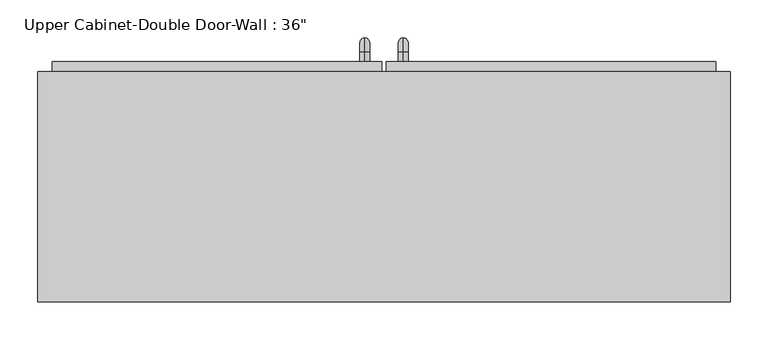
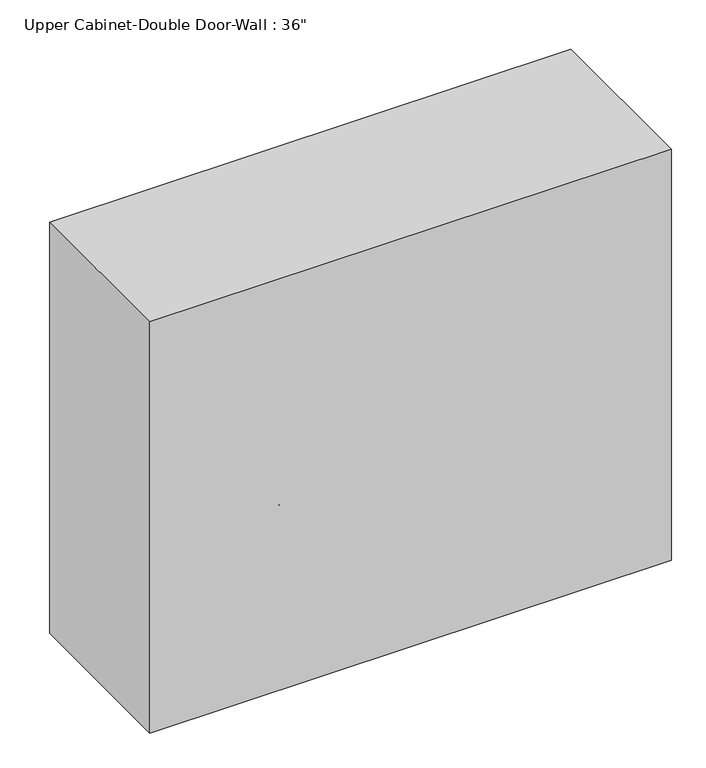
"""IFC4 building model written with IfcOpenShell, lengths in millimetres: furniture geometry."""

from ifc_helpers import new_model, si_unit, point, frame, origin, place, context, project, spatial, polyline, circle_curve, ellipse_curve, trimmed, outline, extrude, faceted_brep, source, transform, mapped, element, save
from ifc_brep_helpers import plane_surface, cylinder_surface, revolved_surface, advanced_brep


def furniture_ea8d62be(model_context):
    return source(origin(), model_context, "Body", "SolidModel", [
        faceted_brep([(-427.4288372, 77.7875, 2133.6), (-427.4288372, 77.7875, 1371.6), (486.9711628, 77.7875, 1371.6), (486.9711628, 77.7875, 2133.6), (-427.4288372, 382.5875, 2133.6), (486.9711628, 382.5875, 2133.6), (486.9711628, 382.5875, 1371.6), (-427.4288372, 382.5875, 1371.6), (-408.3788372, 382.5875, 2114.55), (-408.3788372, 382.5875, 1390.65), (467.9211628, 382.5875, 1390.65), (467.9211628, 382.5875, 2114.55), (467.9211628, 96.8375, 2114.55), (-408.3788372, 96.8375, 2114.55), (467.9211628, 96.8375, 1390.65), (-408.3788372, 96.8375, 1390.65)], [[[0, 1, 2, 3]], [[4, 5, 6, 7], [8, 9, 10, 11]], [[1, 0, 4, 7]], [[2, 1, 7, 6]], [[3, 2, 6, 5]], [[0, 3, 5, 4]], [[8, 11, 12, 13]], [[11, 10, 14, 12]], [[10, 9, 15, 14]], [[9, 8, 13, 15]], [[13, 12, 14, 15]]]),
        advanced_brep(
        [(55.1711628, 395.2875, 1517.65), (55.1711628, 395.2875, 1530.35), (55.1711628, 407.9875, 1517.65), (55.1711628, 407.9875, 1530.35), (55.1711628, 427.0375, 1511.3), (55.1711628, 414.3375, 1511.3), (55.1711628, 414.3375, 1435.1), (55.1711628, 427.0375, 1435.1), (55.1711628, 407.9875, 1416.05), (55.1711628, 407.9875, 1428.75), (55.1711628, 395.2875, 1428.75), (55.1711628, 395.2875, 1416.05)],
        [
            (0, 1, circle_curve(frame((55.1711628, 395.2875, 1524.0), z_axis=(0.0, -1.0, 0.0), x_axis=(0.0, 0.0, -1.0)), 6.35)),
            (1, 0, circle_curve(frame((55.1711628, 395.2875, 1524.0), z_axis=(0.0, -1.0, 0.0), x_axis=(0.0, 0.0, -1.0)), 6.35)),
            (0, 2),
            (2, 3, circle_curve(frame((55.1711628, 407.9875, 1524.0), z_axis=(0.0, -1.0, 0.0), x_axis=(0.0, 0.0, -1.0)), 6.35)),
            (3, 1),
            (3, 2, circle_curve(frame((55.1711628, 407.9875, 1524.0), z_axis=(0.0, -1.0, 0.0), x_axis=(0.0, 0.0, -1.0)), 6.35)),
            (4, 3, circle_curve(frame((55.1711628, 407.9875, 1511.3), z_axis=(1.0, 0.0, 0.0), x_axis=(0.0, 0.0, 1.0)), 19.05)),
            (2, 5, circle_curve(frame((55.1711628, 407.9875, 1511.3), z_axis=(-1.0, 0.0, 0.0), x_axis=(0.0, 0.0, 1.0)), 6.35)),
            (5, 4, circle_curve(frame((55.1711628, 420.6875, 1511.3), z_axis=(0.0, 0.0, 1.0), x_axis=(0.0, -1.0, 0.0)), 6.35)),
            (4, 5, circle_curve(frame((55.1711628, 420.6875, 1511.3), z_axis=(0.0, 0.0, 1.0), x_axis=(0.0, -1.0, 0.0)), 6.35)),
            (5, 6),
            (6, 7, circle_curve(frame((55.1711628, 420.6875, 1435.1), z_axis=(0.0, 0.0, 1.0), x_axis=(0.0, -1.0, 0.0)), 6.35)),
            (7, 4),
            (7, 6, circle_curve(frame((55.1711628, 420.6875, 1435.1), z_axis=(0.0, 0.0, 1.0), x_axis=(0.0, -1.0, 0.0)), 6.35)),
            (8, 7, circle_curve(frame((55.1711628, 407.9875, 1435.1), z_axis=(1.0, 0.0, 0.0), x_axis=(0.0, 1.0, 0.0)), 19.05)),
            (6, 9, circle_curve(frame((55.1711628, 407.9875, 1435.1), z_axis=(-1.0, 0.0, 0.0), x_axis=(0.0, 1.0, 0.0)), 6.35)),
            (9, 8, circle_curve(frame((55.1711628, 407.9875, 1422.4), z_axis=(0.0, 1.0, 0.0), x_axis=(0.0, 0.0, 1.0)), 6.35)),
            (8, 9, circle_curve(frame((55.1711628, 407.9875, 1422.4), z_axis=(0.0, 1.0, 0.0), x_axis=(0.0, 0.0, 1.0)), 6.35)),
            (10, 11, circle_curve(frame((55.1711628, 395.2875, 1422.4), z_axis=(0.0, -1.0, 0.0), x_axis=(0.0, 0.0, 1.0)), 6.35)),
            (11, 10, circle_curve(frame((55.1711628, 395.2875, 1422.4), z_axis=(0.0, -1.0, 0.0), x_axis=(0.0, 0.0, 1.0)), 6.35)),
            (9, 10),
            (11, 8),
        ],
        [
            plane_surface(frame((48.8211628, 395.2875, 1524.0), z_axis=(0.0, -1.0, 0.0), x_axis=(0.0, 0.0, 1.0))),
            cylinder_surface(frame((55.1711628, 395.2875, 1524.0), z_axis=(0.0, -1.0, 0.0), x_axis=(0.0, 0.0, -1.0)), 6.35),
            revolved_surface(trimmed(ellipse_curve(frame((55.1711628, 407.9875, 1524.0), z_axis=(0.0, -1.0, 0.0), x_axis=(0.0, 0.0, -1.0)), 6.35, 6.35), [point((55.1711628, 407.9875, 1517.65))], [point((55.1711628, 407.9875, 1530.35))], True, "CARTESIAN"), (55.1711628, 407.9875, 1511.3), (-1.0, 0.0, 0.0)),
            revolved_surface(trimmed(ellipse_curve(frame((55.1711628, 407.9875, 1524.0), z_axis=(0.0, -1.0, 0.0), x_axis=(0.0, 0.0, -1.0)), 6.35, 6.35), [point((55.1711628, 407.9875, 1530.35))], [point((55.1711628, 407.9875, 1517.65))], True, "CARTESIAN"), (55.1711628, 407.9875, 1511.3), (-1.0, 0.0, 0.0)),
            cylinder_surface(frame((55.1711628, 420.6875, 1511.3), z_axis=(0.0, 0.0, 1.0), x_axis=(0.0, -1.0, 0.0)), 6.35),
            revolved_surface(trimmed(ellipse_curve(frame((55.1711628, 420.6875, 1435.1), z_axis=(0.0, 0.0, 1.0), x_axis=(0.0, -1.0, 0.0)), 6.35, 6.35), [point((55.1711628, 414.3375, 1435.1))], [point((55.1711628, 427.0375, 1435.1))], True, "CARTESIAN"), (55.1711628, 407.9875, 1435.1), (-1.0, 0.0, 0.0)),
            revolved_surface(trimmed(ellipse_curve(frame((55.1711628, 420.6875, 1435.1), z_axis=(0.0, 0.0, 1.0), x_axis=(0.0, -1.0, 0.0)), 6.35, 6.35), [point((55.1711628, 427.0375, 1435.1))], [point((55.1711628, 414.3375, 1435.1))], True, "CARTESIAN"), (55.1711628, 407.9875, 1435.1), (-1.0, 0.0, 0.0)),
            plane_surface(frame((48.8211628, 395.2875, 1422.4), z_axis=(0.0, -1.0, 0.0), x_axis=(0.0, 0.0, -1.0))),
            cylinder_surface(frame((55.1711628, 407.9875, 1422.4), z_axis=(0.0, 1.0, 0.0), x_axis=(0.0, 0.0, 1.0)), 6.35),
        ],
        [
            (0, [[1, 2]]),
            (1, [[-1, 3, 4, 5]]),
            (1, [[-2, -5, 6, -3]]),
            (2, [[7, -4, 8, 9]]),
            (3, [[-8, -6, -7, 10]]),
            (4, [[-9, 11, 12, 13]]),
            (4, [[-10, -13, 14, -11]]),
            (5, [[15, -12, 16, 17]]),
            (6, [[-16, -14, -15, 18]]),
            (7, [[19, 20]]),
            (8, [[-17, 21, -20, 22]]),
            (8, [[-18, -22, -19, -21]]),
        ],
    ),
        advanced_brep(
        [(4.3711628, 395.2875, 1517.65), (4.3711628, 395.2875, 1530.35), (4.3711628, 407.9875, 1517.65), (4.3711628, 407.9875, 1530.35), (4.3711628, 427.0375, 1511.3), (4.3711628, 414.3375, 1511.3), (4.3711628, 414.3375, 1435.1), (4.3711628, 427.0375, 1435.1), (4.3711628, 407.9875, 1416.05), (4.3711628, 407.9875, 1428.75), (4.3711628, 395.2875, 1428.75), (4.3711628, 395.2875, 1416.05)],
        [
            (0, 1, circle_curve(frame((4.3711628, 395.2875, 1524.0), z_axis=(0.0, -1.0, 0.0), x_axis=(0.0, 0.0, 1.0)), 6.35)),
            (1, 0, circle_curve(frame((4.3711628, 395.2875, 1524.0), z_axis=(0.0, -1.0, 0.0), x_axis=(0.0, 0.0, 1.0)), 6.35)),
            (0, 2),
            (2, 3, circle_curve(frame((4.3711628, 407.9875, 1524.0), z_axis=(0.0, -1.0, 0.0), x_axis=(0.0, 0.0, 1.0)), 6.35)),
            (3, 1),
            (3, 2, circle_curve(frame((4.3711628, 407.9875, 1524.0), z_axis=(0.0, -1.0, 0.0), x_axis=(0.0, 0.0, 1.0)), 6.35)),
            (4, 3, circle_curve(frame((4.3711628, 407.9875, 1511.3), z_axis=(1.0, 0.0, 0.0), x_axis=(0.0, 0.0, 1.0)), 19.05)),
            (2, 5, circle_curve(frame((4.3711628, 407.9875, 1511.3), z_axis=(-1.0, 0.0, 0.0), x_axis=(0.0, 0.0, 1.0)), 6.35)),
            (5, 4, circle_curve(frame((4.3711628, 420.6875, 1511.3), z_axis=(0.0, 0.0, 1.0), x_axis=(0.0, 1.0, 0.0)), 6.35)),
            (4, 5, circle_curve(frame((4.3711628, 420.6875, 1511.3), z_axis=(0.0, 0.0, 1.0), x_axis=(0.0, 1.0, 0.0)), 6.35)),
            (5, 6),
            (6, 7, circle_curve(frame((4.3711628, 420.6875, 1435.1), z_axis=(0.0, 0.0, 1.0), x_axis=(0.0, 1.0, 0.0)), 6.35)),
            (7, 4),
            (7, 6, circle_curve(frame((4.3711628, 420.6875, 1435.1), z_axis=(0.0, 0.0, 1.0), x_axis=(0.0, 1.0, 0.0)), 6.35)),
            (8, 7, circle_curve(frame((4.3711628, 407.9875, 1435.1), z_axis=(1.0, 0.0, 0.0), x_axis=(0.0, 1.0, 0.0)), 19.05)),
            (6, 9, circle_curve(frame((4.3711628, 407.9875, 1435.1), z_axis=(-1.0, 0.0, 0.0), x_axis=(0.0, 1.0, 0.0)), 6.35)),
            (9, 8, circle_curve(frame((4.3711628, 407.9875, 1422.4), z_axis=(0.0, 1.0, 0.0), x_axis=(0.0, 0.0, -1.0)), 6.35)),
            (8, 9, circle_curve(frame((4.3711628, 407.9875, 1422.4), z_axis=(0.0, 1.0, 0.0), x_axis=(0.0, 0.0, -1.0)), 6.35)),
            (10, 11, circle_curve(frame((4.3711628, 395.2875, 1422.4), z_axis=(0.0, -1.0, 0.0), x_axis=(0.0, 0.0, -1.0)), 6.35)),
            (11, 10, circle_curve(frame((4.3711628, 395.2875, 1422.4), z_axis=(0.0, -1.0, 0.0), x_axis=(0.0, 0.0, -1.0)), 6.35)),
            (9, 10),
            (11, 8),
        ],
        [
            plane_surface(frame((-1.9788372, 395.2875, 1524.0), z_axis=(0.0, -1.0, 0.0), x_axis=(0.0, 0.0, 1.0))),
            cylinder_surface(frame((4.3711628, 395.2875, 1524.0), z_axis=(0.0, -1.0, 0.0), x_axis=(0.0, 0.0, 1.0)), 6.35),
            revolved_surface(trimmed(ellipse_curve(frame((4.3711628, 407.9875, 1524.0), z_axis=(0.0, -1.0, 0.0), x_axis=(0.0, 0.0, 1.0)), 6.35, 6.35), [point((4.3711628, 407.9875, 1517.65))], [point((4.3711628, 407.9875, 1530.35))], True, "CARTESIAN"), (4.3711628, 407.9875, 1511.3), (-1.0, 0.0, 0.0)),
            revolved_surface(trimmed(ellipse_curve(frame((4.3711628, 407.9875, 1524.0), z_axis=(0.0, -1.0, 0.0), x_axis=(0.0, 0.0, 1.0)), 6.35, 6.35), [point((4.3711628, 407.9875, 1530.35))], [point((4.3711628, 407.9875, 1517.65))], True, "CARTESIAN"), (4.3711628, 407.9875, 1511.3), (-1.0, 0.0, 0.0)),
            cylinder_surface(frame((4.3711628, 420.6875, 1511.3), z_axis=(0.0, 0.0, 1.0), x_axis=(0.0, 1.0, 0.0)), 6.35),
            revolved_surface(trimmed(ellipse_curve(frame((4.3711628, 420.6875, 1435.1), z_axis=(0.0, 0.0, 1.0), x_axis=(0.0, 1.0, 0.0)), 6.35, 6.35), [point((4.3711628, 414.3375, 1435.1))], [point((4.3711628, 427.0375, 1435.1))], True, "CARTESIAN"), (4.3711628, 407.9875, 1435.1), (-1.0, 0.0, 0.0)),
            revolved_surface(trimmed(ellipse_curve(frame((4.3711628, 420.6875, 1435.1), z_axis=(0.0, 0.0, 1.0), x_axis=(0.0, 1.0, 0.0)), 6.35, 6.35), [point((4.3711628, 427.0375, 1435.1))], [point((4.3711628, 414.3375, 1435.1))], True, "CARTESIAN"), (4.3711628, 407.9875, 1435.1), (-1.0, 0.0, 0.0)),
            plane_surface(frame((-1.9788372, 395.2875, 1422.4), z_axis=(0.0, -1.0, 0.0), x_axis=(0.0, 0.0, -1.0))),
            cylinder_surface(frame((4.3711628, 407.9875, 1422.4), z_axis=(0.0, 1.0, 0.0), x_axis=(0.0, 0.0, -1.0)), 6.35),
        ],
        [
            (0, [[1, 2]]),
            (1, [[-1, 3, 4, 5]]),
            (1, [[-2, -5, 6, -3]]),
            (2, [[7, -4, 8, 9]]),
            (3, [[-8, -6, -7, 10]]),
            (4, [[-9, 11, 12, 13]]),
            (4, [[-10, -13, 14, -11]]),
            (5, [[15, -12, 16, 17]]),
            (6, [[-16, -14, -15, 18]]),
            (7, [[19, 20]]),
            (8, [[-17, 21, -20, 22]]),
            (8, [[-18, -22, -19, -21]]),
        ],
    ),
        extrude(outline(polyline([(32.9461628, 395.2875), (467.9211628, 395.2875), (467.9211628, 363.5375), (32.9461628, 363.5375), (32.9461628, 395.2875)])), frame((0.0, 0.0, 1390.65), z_axis=(0.0, 0.0, 1.0), x_axis=(1.0, 0.0, 0.0)), (0.0, 0.0, 1.0), 723.9),
        extrude(outline(polyline([(-408.3788372, 395.2875), (26.5961628, 395.2875), (26.5961628, 363.5375), (-408.3788372, 363.5375), (-408.3788372, 395.2875)])), frame((0.0, 0.0, 1390.65), z_axis=(0.0, 0.0, 1.0), x_axis=(1.0, 0.0, 0.0)), (0.0, 0.0, 1.0), 723.9),
    ])


if __name__ == "__main__":
    model = new_model("IFC4")
    model_context = context("Model", 3, world=origin())
    ifc_project = project(units=[si_unit("LENGTHUNIT", "METRE", prefix="MILLI")], contexts=[model_context])
    site = spatial("IfcSite", under=ifc_project)
    building = spatial("IfcBuilding", under=site)
    placement = place(None, origin())
    furniture_shape = furniture_ea8d62be(model_context)
    element("IfcFurniture", 1, ObjectType="Upper Cabinet-Double Door-Wall : 36\"", at=placement, inside=building, context=model_context, shape_type="MappedRepresentation", body=[
        mapped(furniture_shape, transform((0.0, 0.0, 0.0), x_axis=(1.0, 0.0, 0.0), y_axis=(0.0, 1.0, 0.0), z_axis=(0.0, 0.0, 1.0))),
    ])
    save(model, "model.ifc")
